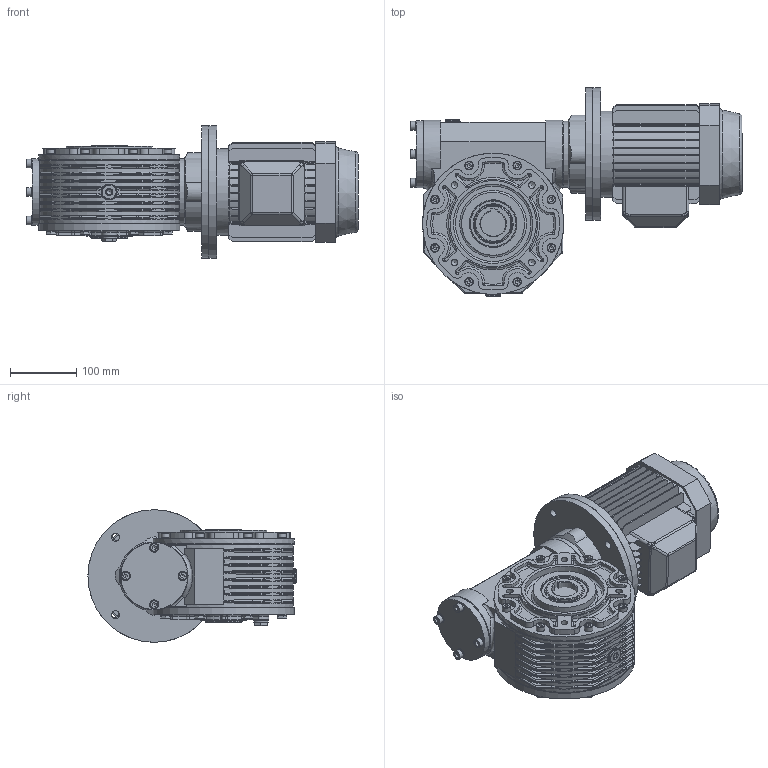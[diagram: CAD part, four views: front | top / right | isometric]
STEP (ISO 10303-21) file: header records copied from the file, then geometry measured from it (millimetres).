
FILE_DESCRIPTION((''),'2;1');
FILE_NAME('Y:\Archivi Inventor\Prog_01\GRAND_50\complessivi\Figurini\MRV50 sito\80\mrv50_fp2_80_b5.stp','2013-02-06T15:24:13',('tech3'),(''),'Autodesk Inventor 2013','Autodesk Inventor 2013','');
FILE_SCHEMA(('AUTOMOTIVE_DESIGN { 1 0 10303 214 1 1 1 1 }'));
Length unit declared in the file: millimetre
Products named in the file (20): mrv50_80_90l_90s_b5; mrv50_fig; Figurino_carcassa_MRV50; 0105028; 0105029; figurino_corona_MRV50; Guarnizione 3_8 GAS; Tappo 3_8 GAS_esagn_incsst; figurino_0105009; ISO 4017 M8 x 20; 55_70_8; fig_0105002; Tappo3_8 GAS; ISO 4762 M8 x 16; fig_0105004; UNI 6592 8.4 x 14; UNI 5931  M 8 x  25; 0105006; ISO 4762 M8 x 20; motori B5 80
Assembly tree (48 placements, depth 3):
  mrv50_80_90l_90s_b5
    mrv50_fig
      Figurino_carcassa_MRV50
      0105028  x2
      0105029  x2
      figurino_corona_MRV50
      Guarnizione 3_8 GAS  x3
      Tappo 3_8 GAS_esagn_incsst  x2
      figurino_0105009
      ISO 4017 M8 x 20  x8
      55_70_8  x2
      fig_0105002
      Tappo3_8 GAS
      ISO 4762 M8 x 16  x8
      fig_0105004
      UNI 6592 8.4 x 14  x4
      UNI 5931  M 8 x  25  x4
    0105006
    ISO 4762 M8 x 20  x4
    motori B5 80
Bounding box: 500.8 x 314 x 200 mm (x, y, z)
Volume: 9394218.2 mm3; surface area: 1093462.7 mm2
Topology: 59 solids, 61 shells, 2177 faces, 5366 edges, 3265 vertices
Faces by surface type: plane 832, cylinder 698, cone 214, torus 199, bspline 152, sphere 82
Full cylindrical faces by diameter (mm): 2 x2, 6.647 x24, 8 x26, 8.4 x4, 8.5 x48, 10.106 x4, 11.63 x8, 12 x8, 13 x20, 13.046 x1, 14 x4, 14.95 x3, 16.3 x3, 16.5 x2, 19 x1, 22 x6, 24 x2, 55 x1, 60 x1, 66.4 x2, 69 x2, 70 x5, 72 x4, 73 x2, 75 x1, 95 x1, 99.5 x2, 100 x1, 101 x1, 102 x2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
Entity records: 60025 total; most frequent: CARTESIAN_POINT 18722, DIRECTION 8664, ORIENTED_EDGE 7864, EDGE_CURVE 3932, AXIS2_PLACEMENT_3D 3447, VERTEX_POINT 2555, EDGE_LOOP 2161, CIRCLE 1772
